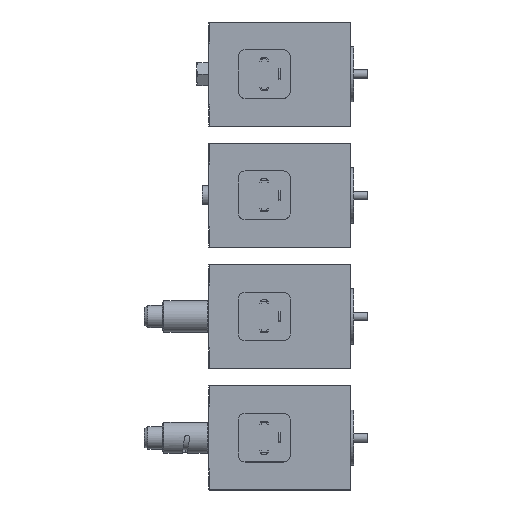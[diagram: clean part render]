
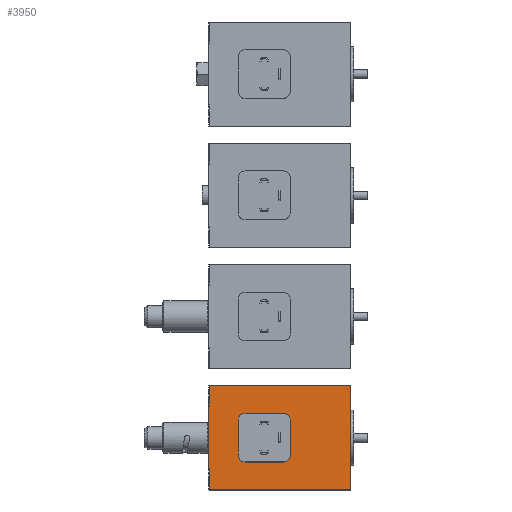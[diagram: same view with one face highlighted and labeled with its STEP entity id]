
A CAD part, top view. The second image highlights one B-rep face of the part: STEP entity #3950.
In plain terms, the highlighted planar face has unit normal (0, 0, 1).
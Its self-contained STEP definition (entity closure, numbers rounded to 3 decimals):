
#3950=ADVANCED_FACE('', (#3960,#3970,#3980,#3990,#4000), #4010, .T.);
#24920=AXIS2_PLACEMENT_3D('Ax2Pl3d', #24930, #24940, #24950);
#25000=AXIS2_PLACEMENT_3D('Ax2Pl3d', #25010, #25020, #25030);
#25040=AXIS2_PLACEMENT_3D('Ax2Pl3d', #25050, #25060, #25070);
#25080=AXIS2_PLACEMENT_3D('Ax2Pl3d', #25090, #25100, #25110);
#25120=AXIS2_PLACEMENT_3D('Ax2Pl3d', #25130, #25140, #25150);
#55630=B_SPLINE_CURVE_WITH_KNOTS('Bspl', 3, (#55640,#55650,#55660,
#55670,#55680,#55690,#55700,#55710,#55720), .UNSPECIFIED., .F., .F., (4,
1,1,1,1,1,4), (0.,0.25,0.375,0.5,0.625,0.75,1.), .UNSPECIFIED.);
#55730=B_SPLINE_CURVE_WITH_KNOTS('Bspl', 3, (#55740,#55750,#55760,
#55770,#55780,#55790,#55800,#55810,#55820), .UNSPECIFIED., .F., .F., (4,
1,1,1,1,1,4), (0.,0.25,0.375,0.5,0.625,0.75,1.), .UNSPECIFIED.);
#66690=CARTESIAN_POINT('', (81.2,0.,450.));
#66730=CARTESIAN_POINT('', (81.2,60.,450.));
#66740=CARTESIAN_POINT('', (81.2,60.,450.));
#66830=CARTESIAN_POINT('', (-0.3,10.992,450.));
#66850=CARTESIAN_POINT('', (-0.3,10.992,450.));
#66860=CARTESIAN_POINT('', (-0.3,49.008,450.));
#24930=CARTESIAN_POINT('HicPkt', (27.7,30.,450.));
#66950=CARTESIAN_POINT('', (27.7,37.5,450.));
#25010=CARTESIAN_POINT('HicPkt', (0.,10.513,450.));
#55640=CARTESIAN_POINT('', (0.,10.513,450.));
#55650=CARTESIAN_POINT('', (-0.024,10.553,450.))
;
#55660=CARTESIAN_POINT('', (-0.061,10.612,450.));
#55670=CARTESIAN_POINT('', (-0.11,10.692,450.));
#55680=CARTESIAN_POINT('', (-0.147,10.751,450.));
#55690=CARTESIAN_POINT('', (-0.185,10.811,450.));
#55700=CARTESIAN_POINT('', (-0.236,10.892,450.));
#55710=CARTESIAN_POINT('', (-0.274,10.952,450.));
#55720=CARTESIAN_POINT('', (-0.3,10.992,450.));
#66970=CARTESIAN_POINT('', (0.,10.513,450.));
#66980=CARTESIAN_POINT('', (0.,10.513,450.));
#66990=CARTESIAN_POINT('', (0.,0.,450.));
#67000=CARTESIAN_POINT('', (81.2,0.,450.));
#67010=CARTESIAN_POINT('', (0.,60.,450.));
#67020=CARTESIAN_POINT('', (0.,60.,450.));
#67030=CARTESIAN_POINT('', (0.,60.,450.));
#67040=CARTESIAN_POINT('', (0.,49.487,450.));
#55740=CARTESIAN_POINT('', (-0.3,49.008,450.));
#55750=CARTESIAN_POINT('', (-0.273,49.05,450.));
#55760=CARTESIAN_POINT('', (-0.233,49.112,450.));
#55770=CARTESIAN_POINT('', (-0.181,49.195,450.));
#55780=CARTESIAN_POINT('', (-0.14,49.259,450.));
#55790=CARTESIAN_POINT('', (-0.106,49.315,450.));
#55800=CARTESIAN_POINT('', (-0.058,49.392,450.));
#55810=CARTESIAN_POINT('', (-0.023,49.449,450.))
;
#55820=CARTESIAN_POINT('', (0.,49.487,450.));
#25050=CARTESIAN_POINT('HicPkt', (22.45,39.25,450.));
#67050=CARTESIAN_POINT('', (22.45,40.75,450.));
#25090=CARTESIAN_POINT('HicPkt', (38.2,30.,450.));
#67060=CARTESIAN_POINT('', (38.2,31.5,450.));
#25130=CARTESIAN_POINT('HicPkt', (40.95,20.75,450.));
#67070=CARTESIAN_POINT('', (40.95,22.25,450.));
#77500=CIRCLE('Circle', #24920, 7.5);
#77520=CIRCLE('Circle', #25040, 1.5);
#77530=CIRCLE('Circle', #25080, 1.5);
#77540=CIRCLE('Circle', #25120, 1.5);
#116790=DIRECTION('', (0.,1.,0.));
#116800=DIRECTION('', (0.,-1.,0.));
#24940=DIRECTION('Axis', (0.,0.,1.));
#24950=DIRECTION('RefDirection', (1.,0.,0.));
#25020=DIRECTION('Axis', (0.,0.,1.));
#25030=DIRECTION('RefDirection', (1.,0.,0.));
#116840=DIRECTION('', (0.,1.,0.));
#116850=DIRECTION('', (1.,0.,0.));
#116860=DIRECTION('', (-1.,0.,0.));
#116870=DIRECTION('', (0.,1.,0.));
#25060=DIRECTION('Axis', (0.,0.,1.));
#25070=DIRECTION('RefDirection', (1.,0.,0.));
#25100=DIRECTION('Axis', (0.,0.,1.));
#25110=DIRECTION('RefDirection', (1.,0.,0.));
#25140=DIRECTION('Axis', (0.,0.,1.));
#25150=DIRECTION('RefDirection', (1.,0.,0.));
#125720=EDGE_CURVE('', #125640, #125700, #125730, .T.);
#125930=EDGE_CURVE('', #125940, #125910, #125950, .T.);
#126100=EDGE_CURVE('', #126110, #126110, #77500, .T.);
#126140=EDGE_CURVE('', #126150, #125910, #55630, .T.);
#126160=EDGE_CURVE('', #126170, #126150, #126180, .T.);
#126190=EDGE_CURVE('', #126170, #125640, #126200, .T.);
#126210=EDGE_CURVE('', #125700, #126220, #126230, .T.);
#126240=EDGE_CURVE('', #126250, #126220, #126260, .T.);
#126270=EDGE_CURVE('', #125940, #126250, #55730, .T.);
#126280=EDGE_CURVE('', #126290, #126290, #77520, .T.);
#126300=EDGE_CURVE('', #126310, #126310, #77530, .T.);
#126320=EDGE_CURVE('', #126330, #126330, #77540, .T.);
#149030=EDGE_LOOP('Edge_loop', (#149040,#149050,#149060,#149070,#149080,
#149090,#149100,#149110));
#149120=EDGE_LOOP('Edge_loop', (#149130));
#149140=EDGE_LOOP('Edge_loop', (#149150));
#149160=EDGE_LOOP('Edge_loop', (#149170));
#149180=EDGE_LOOP('Edge_loop', (#149190));
#3970=FACE_BOUND('', #149120, .T.);
#3980=FACE_BOUND('', #149140, .T.);
#3990=FACE_BOUND('', #149160, .T.);
#4000=FACE_BOUND('', #149180, .T.);
#3960=FACE_OUTER_BOUND('Face_outer_bound', #149030, .T.);
#125730=LINE('Line', #66740, #182620);
#125950=LINE('Line', #66850, #182630);
#126180=LINE('Line', #66980, #182670);
#126200=LINE('Line', #67000, #182680);
#126230=LINE('Line', #67010, #182690);
#126260=LINE('Line', #67030, #182700);
#149040=ORIENTED_EDGE('', *, *, #126140, .F.);
#149050=ORIENTED_EDGE('', *, *, #126160, .F.);
#149060=ORIENTED_EDGE('', *, *, #126190, .T.);
#149070=ORIENTED_EDGE('', *, *, #125720, .T.);
#149080=ORIENTED_EDGE('', *, *, #126210, .T.);
#149090=ORIENTED_EDGE('', *, *, #126240, .F.);
#149100=ORIENTED_EDGE('', *, *, #126270, .F.);
#149110=ORIENTED_EDGE('', *, *, #125930, .T.);
#149130=ORIENTED_EDGE('', *, *, #126100, .F.);
#149150=ORIENTED_EDGE('', *, *, #126280, .F.);
#149170=ORIENTED_EDGE('', *, *, #126300, .F.);
#149190=ORIENTED_EDGE('', *, *, #126320, .F.);
#4010=PLANE('Plane', #25000);
#182620=VECTOR('', #116790, 60.);
#182630=VECTOR('', #116800, 38.017);
#182670=VECTOR('', #116840, 10.513);
#182680=VECTOR('', #116850, 81.2);
#182690=VECTOR('', #116860, 81.2);
#182700=VECTOR('', #116870, 10.513);
#125640=VERTEX_POINT('', #66690);
#125700=VERTEX_POINT('', #66730);
#125910=VERTEX_POINT('', #66830);
#125940=VERTEX_POINT('', #66860);
#126110=VERTEX_POINT('', #66950);
#126150=VERTEX_POINT('', #66970);
#126170=VERTEX_POINT('', #66990);
#126220=VERTEX_POINT('', #67020);
#126250=VERTEX_POINT('', #67040);
#126290=VERTEX_POINT('', #67050);
#126310=VERTEX_POINT('', #67060);
#126330=VERTEX_POINT('', #67070);
